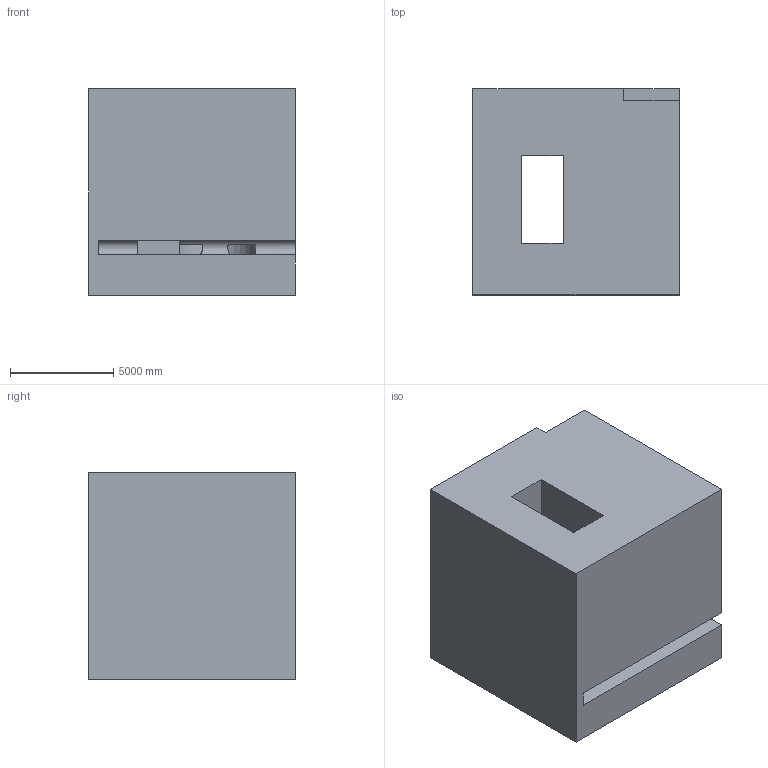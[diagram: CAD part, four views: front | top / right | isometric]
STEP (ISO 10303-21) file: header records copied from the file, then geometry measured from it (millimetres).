
FILE_DESCRIPTION (( 'STEP AP203' ), '1' );
FILE_NAME ('138.STEP', '2022-09-06T13:22:27', ( 'user' ), ( '' ), 'SwSTEP 2.0', 'SolidWorks 2021', '' );
FILE_SCHEMA (( 'CONFIG_CONTROL_DESIGN' ));
Length unit declared in the file: centimetre
Products named in the file (1): 138
Bounding box: 10000 x 10000 x 10000 mm (x, y, z)
Volume: 860825170458.2 mm3; surface area: 780929272.8 mm2
Topology: 1 solids, 1 shells, 25 faces, 75 edges, 50 vertices
Faces by surface type: plane 20, cylinder 5
Entity records: 1116 total; most frequent: CARTESIAN_POINT 346, ORIENTED_EDGE 150, DIRECTION 137, EDGE_CURVE 75, VECTOR 59, LINE 59, VERTEX_POINT 50, AXIS2_PLACEMENT_3D 39
